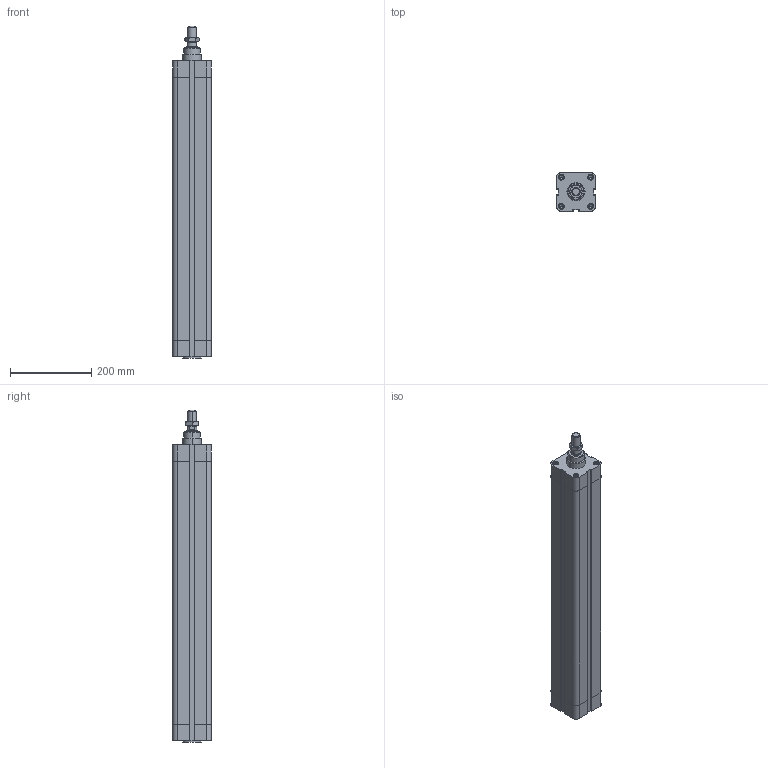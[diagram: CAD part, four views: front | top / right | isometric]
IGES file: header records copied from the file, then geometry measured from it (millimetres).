
Global section: file name: No Iges File Name specified; native system: AutoDesk Inventor R6.1; preprocessor: AutoDesk Inventor Iges Exporter R6.1; author: No Author specified; organization: No Organization specified; date: 20040107.171501; units: millimetre
Bounding box: 95.5 x 95.5 x 818 mm (x, y, z)
Volume: 6439152.9 mm3; surface area: 439513.6 mm2
Topology: 3 solids, 3 shells, 244 faces, 570 edges, 356 vertices
Faces by surface type: plane 83, bspline 67, cylinder 34, revolution 34, cone 24, torus 2
